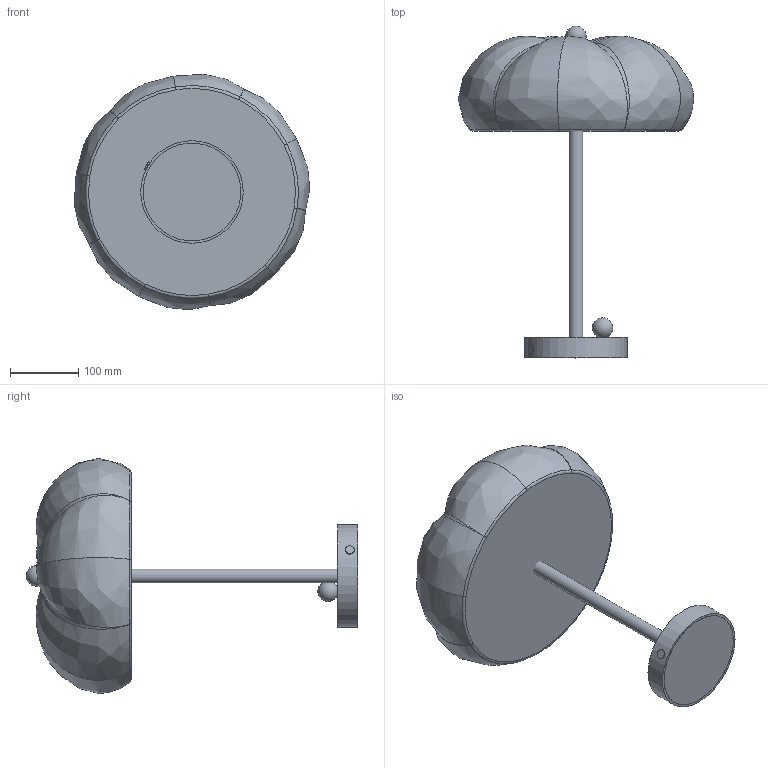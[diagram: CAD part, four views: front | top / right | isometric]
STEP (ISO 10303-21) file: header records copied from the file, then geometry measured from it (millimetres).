
FILE_DESCRIPTION(/* description */ (''),/* implementation_level */ '2;1');
FILE_NAME(/* name */ 'B749 Hana Table MD.stp',/* time_stamp */ '2025-10-22T12:55:25+02:00',/* author */ ('Dominik'),/* organization */ (''),/* preprocessor_version */ 'ST-DEVELOPER v20.1',/* originating_system */ 'Autodesk Inventor 2026',/* authorisation */ '');
FILE_SCHEMA (('AUTOMOTIVE_DESIGN { 1 0 10303 214 3 1 1 }'));
Length unit declared in the file: millimetre
Products named in the file (1): B749 Hana Table MD
Bounding box: 344.18 x 485.41 x 344.18 mm (x, y, z)
Volume: 10873900.1 mm3; surface area: 386585.6 mm2
Topology: 9 solids, 9 shells, 77 faces, 150 edges, 88 vertices
Faces by surface type: bspline 40, plane 15, cylinder 9, cone 6, torus 5, sphere 2
Full cylindrical faces by diameter (mm): 10 x1, 11.917 x2, 13 x1, 20 x1, 34 x2, 143 x1, 150 x1
Entity records: 13721 total; most frequent: CARTESIAN_POINT 12249, ORIENTED_EDGE 292, DIRECTION 213, EDGE_CURVE 146, AXIS2_PLACEMENT_3D 99, VERTEX_POINT 88, STYLED_ITEM 86, EDGE_LOOP 78
